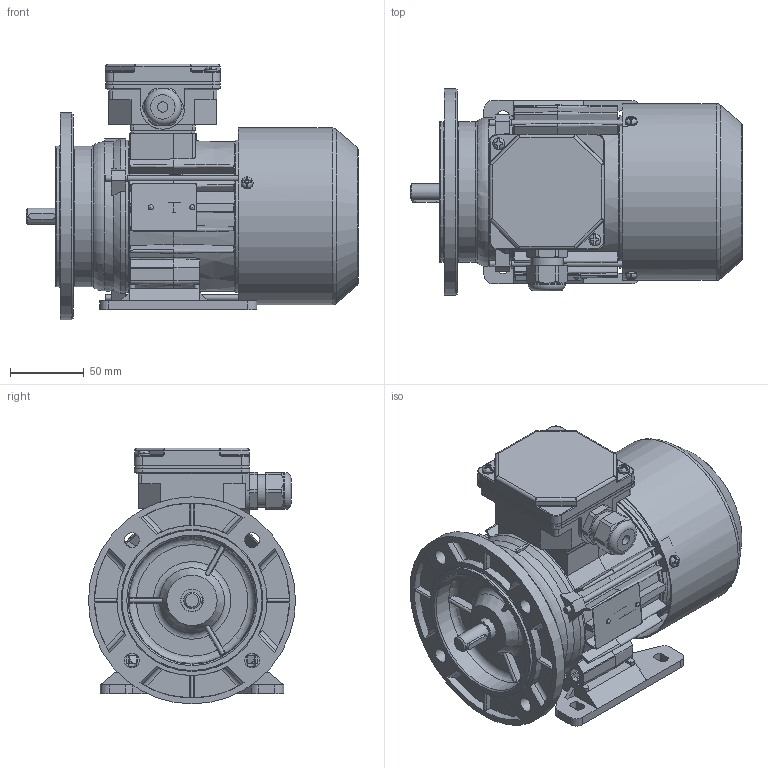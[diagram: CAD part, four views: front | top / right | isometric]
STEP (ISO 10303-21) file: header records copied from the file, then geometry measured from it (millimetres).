
FILE_DESCRIPTION( ( 'Unknown' ), '1' );
FILE_NAME( 'G:/Poczta Tk-1/STP/w.m.63/Sh63/SLh63-C.stp', 'Unknown', ( 'K. Szlosek' ), ( 'BESEL S.A.' ), 'PSStep 17.0.49', 'Unknown', ' ' );
FILE_SCHEMA( ( 'AUTOMOTIVE_DESIGN { 1 0 10303 214 1 1 1 1 }' ) );
Length unit declared in the file: millimetre
Products named in the file (30): Assem1; K3-9973 Kadłub ze stojanem wykończonym Sh63-C; K3-5320 Tarcza łożyskowa P Sg63; K4-2320 Uszczelka nr 1 Sh71,80; Wpust A4x4x18; K3-5321 osłona przewietrznika Sg63; K4-2820 Uszczelka nr 2 Sh71,80; K2-0860 Pokrywka skrzynki zaciskowej; Wkręt samogwintujący M4x16; K2-1769 Przewietrznik Sg63; Wkręt samogwintujący M4x8; Nitokołek A 2x6; K3-9974 wał Sh63-C standard; K2-0859 Podstawa skrzynki 6-cio zaciskowej; Łożysko 6202; Dławnica M20x1,5; Śruba ściągająca E_M4x100; Tabliczka znamionowa 32x44; K1-1110 Tarcza kołnierzowa nowa SKg63-..; K1-1107 Łapa Sg63-.. w. robocza
Assembly tree (46 placements, depth 2):
  Assem1
    K3-9973 Kadłub ze stojanem wykończonym Sh63-C
    K3-5320 Tarcza łożyskowa P Sg63
    K4-2320 Uszczelka nr 1 Sh71,80
    Wpust A4x4x18
    K3-5321 osłona przewietrznika Sg63
    K4-2820 Uszczelka nr 2 Sh71,80
    K2-0860 Pokrywka skrzynki zaciskowej
    Wkręt samogwintujący M4x16  x2
    K2-1769 Przewietrznik Sg63
    Wkręt samogwintujący M4x8  x3
    Nitokołek A 2x6  x2
    K3-9974 wał Sh63-C standard
    K2-0859 Podstawa skrzynki 6-cio zaciskowej
    Łożysko 6202  x2
    Łożysko 6202  x2
    Łożysko 6202  x2
    Łożysko 6202  x2
    Łożysko 6202  x2
    Łożysko 6202  x2
    Łożysko 6202  x2
    Łożysko 6202  x2
    Łożysko 6202  x2
    Łożysko 6202  x2
    Łożysko 6202  x2
    Dławnica M20x1,5
    Śruba ściągająca E_M4x100  x3
    Tabliczka znamionowa 32x44
    K1-1110 Tarcza kołnierzowa nowa SKg63-..
    K1-1107 Łapa Sg63-.. w. robocza
Bounding box: 224.5 x 140 x 173 mm (x, y, z)
Volume: 613742.2 mm3; surface area: 391230 mm2
Topology: 46 solids, 64 shells, 1980 faces, 5444 edges, 3534 vertices
Faces by surface type: plane 1013, cylinder 592, cone 128, torus 112, bspline 96, sphere 39
Full cylindrical faces by diameter (mm): 2 x2, 2.4 x2, 3.3 x3, 3.7 x10, 4 x8, 4.5 x4, 4.8 x4, 5 x4, 5.8 x4, 7 x4, 8 x6, 10 x4, 11 x1, 12.9 x1, 13.1 x1, 13.5 x1, 15 x4, 15.4 x2, 18.376 x1, 18.38 x1, 19 x2, 19.5 x1, 20 x2, 20.1 x1, 21.52 x4, 22.3 x1, 25 x1, 28 x2, 28.48 x4, 31 x2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
Entity records: 84557 total; most frequent: CARTESIAN_POINT 25790, ORIENTED_EDGE 9438, DIRECTION 9132, EDGE_CURVE 4719, AXIS2_PLACEMENT_3D 3359, VERTEX_POINT 3209, LINE 2414, VECTOR 2414
